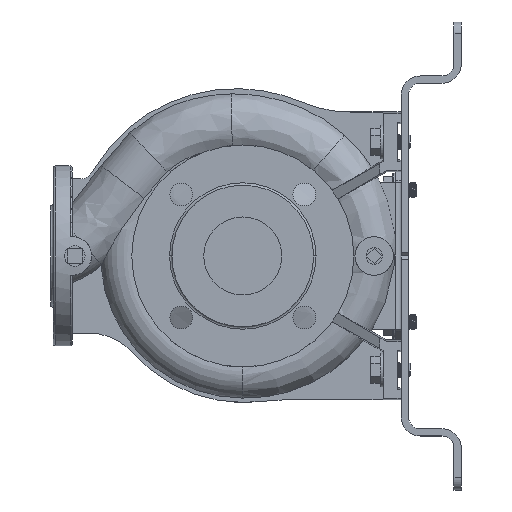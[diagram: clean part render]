
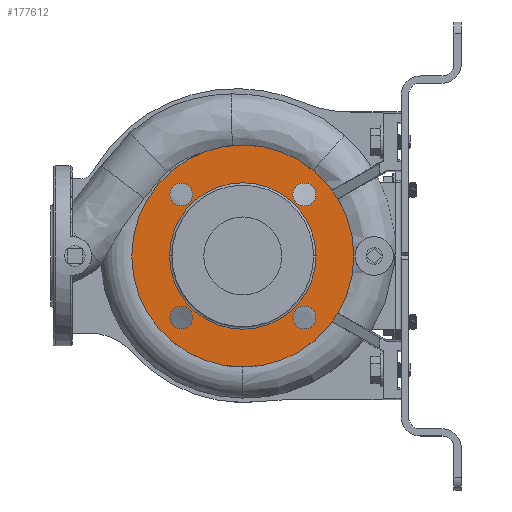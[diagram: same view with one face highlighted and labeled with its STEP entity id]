
A CAD part, left-side view. The second image highlights one B-rep face of the part: STEP entity #177612.
In plain terms, the highlighted planar face has unit normal (-1, 0, 0).
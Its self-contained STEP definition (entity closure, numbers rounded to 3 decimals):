
#776 = DIRECTION ( 'NONE',  ( -1., 0., 0. ) ) ;
#1915 = ORIENTED_EDGE ( 'NONE', *, *, #149849, .F. ) ;
#3705 = ORIENTED_EDGE ( 'NONE', *, *, #153602, .F. ) ;
#6731 = DIRECTION ( 'NONE',  ( -1., 0., 0. ) ) ;
#7323 = VERTEX_POINT ( 'NONE', #94967 ) ;
#7436 = VERTEX_POINT ( 'NONE', #176931 ) ;
#8468 = ORIENTED_EDGE ( 'NONE', *, *, #25149, .F. ) ;
#9643 = CIRCLE ( 'NONE', #111345, 9.5 ) ;
#9868 = EDGE_CURVE ( 'NONE', #51782, #125197, #151193, .T. ) ;
#9921 = EDGE_CURVE ( 'NONE', #7323, #123955, #17422, .T. ) ;
#10317 = DIRECTION ( 'NONE',  ( -1., 0., 0. ) ) ;
#10476 = CARTESIAN_POINT ( 'NONE',  ( -78., -41.765, -51.265 ) ) ;
#11027 = AXIS2_PLACEMENT_3D ( 'NONE', #44265, #99767, #170800 ) ;
#11631 = DIRECTION ( 'NONE',  ( -1., 0., 0. ) ) ;
#12401 = AXIS2_PLACEMENT_3D ( 'NONE', #136303, #11631, #67092 ) ;
#13178 = CARTESIAN_POINT ( 'NONE',  ( -78., 0., 0. ) ) ;
#14024 = DIRECTION ( 'NONE',  ( 0., 0., 1. ) ) ;
#14874 = DIRECTION ( 'NONE',  ( 0., -1., 0. ) ) ;
#14907 = DIRECTION ( 'NONE',  ( -1., 0., 0. ) ) ;
#15707 = AXIS2_PLACEMENT_3D ( 'NONE', #112239, #14907, #14024 ) ;
#15721 = DIRECTION ( 'NONE',  ( -1., 0., 0. ) ) ;
#17422 = CIRCLE ( 'NONE', #78391, 9.5 ) ;
#18590 = EDGE_CURVE ( 'NONE', #56650, #41608, #159248, .T. ) ;
#21053 = EDGE_CURVE ( 'NONE', #34003, #90314, #146656, .T. ) ;
#21311 = DIRECTION ( 'NONE',  ( 0., -1., 0. ) ) ;
#25149 = EDGE_CURVE ( 'NONE', #44034, #142652, #120341, .T. ) ;
#26922 = EDGE_LOOP ( 'NONE', ( #149710, #1915 ) ) ;
#27704 = DIRECTION ( 'NONE',  ( 0., -1., 0. ) ) ;
#28633 = EDGE_LOOP ( 'NONE', ( #3705, #33572 ) ) ;
#30319 = CARTESIAN_POINT ( 'NONE',  ( -78., 0., 0. ) ) ;
#31069 = FACE_BOUND ( 'NONE', #155126, .T. ) ;
#33572 = ORIENTED_EDGE ( 'NONE', *, *, #21053, .F. ) ;
#34003 = VERTEX_POINT ( 'NONE', #56049 ) ;
#36163 = CARTESIAN_POINT ( 'NONE',  ( -78., -41.765, 51.265 ) ) ;
#36728 = CARTESIAN_POINT ( 'NONE',  ( -78., 51.265, 51.265 ) ) ;
#39329 = EDGE_LOOP ( 'NONE', ( #144280, #164130 ) ) ;
#39791 = ORIENTED_EDGE ( 'NONE', *, *, #77520, .F. ) ;
#41608 = VERTEX_POINT ( 'NONE', #10476 ) ;
#44034 = VERTEX_POINT ( 'NONE', #176297 ) ;
#44265 = CARTESIAN_POINT ( 'NONE',  ( -78., -51.265, -51.265 ) ) ;
#44685 = DIRECTION ( 'NONE',  ( 1., 0., 0. ) ) ;
#45110 = CARTESIAN_POINT ( 'NONE',  ( -78., -60.765, 51.265 ) ) ;
#49536 = CARTESIAN_POINT ( 'NONE',  ( -78., -61., 0. ) ) ;
#49859 = CARTESIAN_POINT ( 'NONE',  ( -78., 60.765, 51.265 ) ) ;
#51782 = VERTEX_POINT ( 'NONE', #36163 ) ;
#55639 = FACE_BOUND ( 'NONE', #26922, .T. ) ;
#56049 = CARTESIAN_POINT ( 'NONE',  ( -78., 61., 0. ) ) ;
#56221 = DIRECTION ( 'NONE',  ( 0., 1., 0. ) ) ;
#56650 = VERTEX_POINT ( 'NONE', #177975 ) ;
#57581 = EDGE_CURVE ( 'NONE', #41608, #56650, #128878, .T. ) ;
#59217 = FACE_BOUND ( 'NONE', #110978, .T. ) ;
#59752 = ORIENTED_EDGE ( 'NONE', *, *, #69049, .T. ) ;
#61847 = CIRCLE ( 'NONE', #12401, 9.5 ) ;
#62762 = CARTESIAN_POINT ( 'NONE',  ( -78., -51.265, 51.265 ) ) ;
#67050 = EDGE_CURVE ( 'NONE', #107156, #7436, #114406, .T. ) ;
#67092 = DIRECTION ( 'NONE',  ( 0., 0., -1. ) ) ;
#69049 = EDGE_CURVE ( 'NONE', #7436, #107156, #166953, .T. ) ;
#71686 = CARTESIAN_POINT ( 'NONE',  ( -78., 60.765, -51.265 ) ) ;
#72706 = AXIS2_PLACEMENT_3D ( 'NONE', #62762, #172066, #172964 ) ;
#77520 = EDGE_CURVE ( 'NONE', #142652, #44034, #118525, .T. ) ;
#78391 = AXIS2_PLACEMENT_3D ( 'NONE', #161052, #159259, #147383 ) ;
#84484 = DIRECTION ( 'NONE',  ( 0., 0., 1. ) ) ;
#85600 = AXIS2_PLACEMENT_3D ( 'NONE', #30319, #110393, #14874 ) ;
#85658 = FACE_BOUND ( 'NONE', #39329, .T. ) ;
#90314 = VERTEX_POINT ( 'NONE', #49536 ) ;
#94967 = CARTESIAN_POINT ( 'NONE',  ( -78., 41.765, 51.265 ) ) ;
#97035 = AXIS2_PLACEMENT_3D ( 'NONE', #13178, #152382, #27704 ) ;
#97886 = CARTESIAN_POINT ( 'NONE',  ( -78., -92.5, 0. ) ) ;
#99767 = DIRECTION ( 'NONE',  ( -1., 0., 0. ) ) ;
#101086 = DIRECTION ( 'NONE',  ( 0., 1., 0. ) ) ;
#101175 = DIRECTION ( 'NONE',  ( 0., -1., 0. ) ) ;
#102871 = CIRCLE ( 'NONE', #97035, 61. ) ;
#103117 = AXIS2_PLACEMENT_3D ( 'NONE', #140379, #15721, #101175 ) ;
#103123 = ORIENTED_EDGE ( 'NONE', *, *, #18590, .F. ) ;
#107156 = VERTEX_POINT ( 'NONE', #97886 ) ;
#110393 = DIRECTION ( 'NONE',  ( -1., 0., 0. ) ) ;
#110810 = CARTESIAN_POINT ( 'NONE',  ( -78., -51.265, -51.265 ) ) ;
#110978 = EDGE_LOOP ( 'NONE', ( #8468, #39791 ) ) ;
#111345 = AXIS2_PLACEMENT_3D ( 'NONE', #36728, #6731, #21311 ) ;
#111469 = AXIS2_PLACEMENT_3D ( 'NONE', #110810, #166383, #56221 ) ;
#112239 = CARTESIAN_POINT ( 'NONE',  ( -78., 51.265, -51.265 ) ) ;
#112939 = CARTESIAN_POINT ( 'NONE',  ( -78., 61., 0. ) ) ;
#114406 = CIRCLE ( 'NONE', #137693, 92.5 ) ;
#115470 = EDGE_LOOP ( 'NONE', ( #162299, #59752 ) ) ;
#118525 = CIRCLE ( 'NONE', #124399, 9.5 ) ;
#120341 = CIRCLE ( 'NONE', #15707, 9.5 ) ;
#123955 = VERTEX_POINT ( 'NONE', #49859 ) ;
#124399 = AXIS2_PLACEMENT_3D ( 'NONE', #178326, #776, #84484 ) ;
#125197 = VERTEX_POINT ( 'NONE', #45110 ) ;
#126635 = ORIENTED_EDGE ( 'NONE', *, *, #57581, .F. ) ;
#128878 = CIRCLE ( 'NONE', #111469, 9.5 ) ;
#135384 = AXIS2_PLACEMENT_3D ( 'NONE', #112939, #44685, #101086 ) ;
#136303 = CARTESIAN_POINT ( 'NONE',  ( -78., -51.265, 51.265 ) ) ;
#137693 = AXIS2_PLACEMENT_3D ( 'NONE', #148613, #10317, #163194 ) ;
#139387 = PLANE ( 'NONE',  #135384 ) ;
#140283 = FACE_OUTER_BOUND ( 'NONE', #115470, .T. ) ;
#140379 = CARTESIAN_POINT ( 'NONE',  ( -78., 0., 0. ) ) ;
#142652 = VERTEX_POINT ( 'NONE', #71686 ) ;
#144280 = ORIENTED_EDGE ( 'NONE', *, *, #149234, .F. ) ;
#146656 = CIRCLE ( 'NONE', #103117, 61. ) ;
#147383 = DIRECTION ( 'NONE',  ( 0., -1., 0. ) ) ;
#148613 = CARTESIAN_POINT ( 'NONE',  ( -78., 0., 0. ) ) ;
#149234 = EDGE_CURVE ( 'NONE', #125197, #51782, #61847, .T. ) ;
#149710 = ORIENTED_EDGE ( 'NONE', *, *, #9921, .F. ) ;
#149849 = EDGE_CURVE ( 'NONE', #123955, #7323, #9643, .T. ) ;
#151193 = CIRCLE ( 'NONE', #72706, 9.5 ) ;
#152382 = DIRECTION ( 'NONE',  ( -1., 0., 0. ) ) ;
#153602 = EDGE_CURVE ( 'NONE', #90314, #34003, #102871, .T. ) ;
#155126 = EDGE_LOOP ( 'NONE', ( #103123, #126635 ) ) ;
#159248 = CIRCLE ( 'NONE', #11027, 9.5 ) ;
#159259 = DIRECTION ( 'NONE',  ( -1., 0., 0. ) ) ;
#161052 = CARTESIAN_POINT ( 'NONE',  ( -78., 51.265, 51.265 ) ) ;
#162299 = ORIENTED_EDGE ( 'NONE', *, *, #67050, .T. ) ;
#163194 = DIRECTION ( 'NONE',  ( 0., -1., 0. ) ) ;
#164130 = ORIENTED_EDGE ( 'NONE', *, *, #9868, .F. ) ;
#166383 = DIRECTION ( 'NONE',  ( -1., 0., 0. ) ) ;
#166953 = CIRCLE ( 'NONE', #85600, 92.5 ) ;
#167634 = FACE_BOUND ( 'NONE', #28633, .T. ) ;
#170800 = DIRECTION ( 'NONE',  ( 0., 1., 0. ) ) ;
#172066 = DIRECTION ( 'NONE',  ( -1., 0., 0. ) ) ;
#172964 = DIRECTION ( 'NONE',  ( 0., 0., -1. ) ) ;
#176297 = CARTESIAN_POINT ( 'NONE',  ( -78., 41.765, -51.265 ) ) ;
#176931 = CARTESIAN_POINT ( 'NONE',  ( -78., 92.5, 0. ) ) ;
#177612 = ADVANCED_FACE ( 'NONE', ( #85658, #31069, #59217, #55639, #167634, #140283 ), #139387, .F. ) ;
#177975 = CARTESIAN_POINT ( 'NONE',  ( -78., -60.765, -51.265 ) ) ;
#178326 = CARTESIAN_POINT ( 'NONE',  ( -78., 51.265, -51.265 ) ) ;
